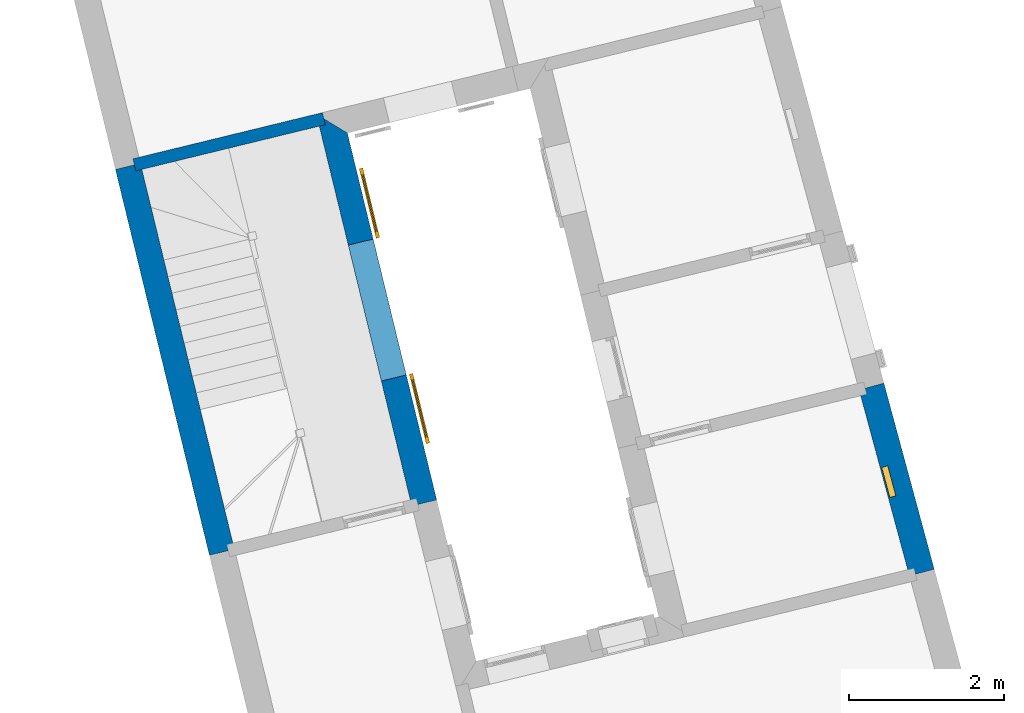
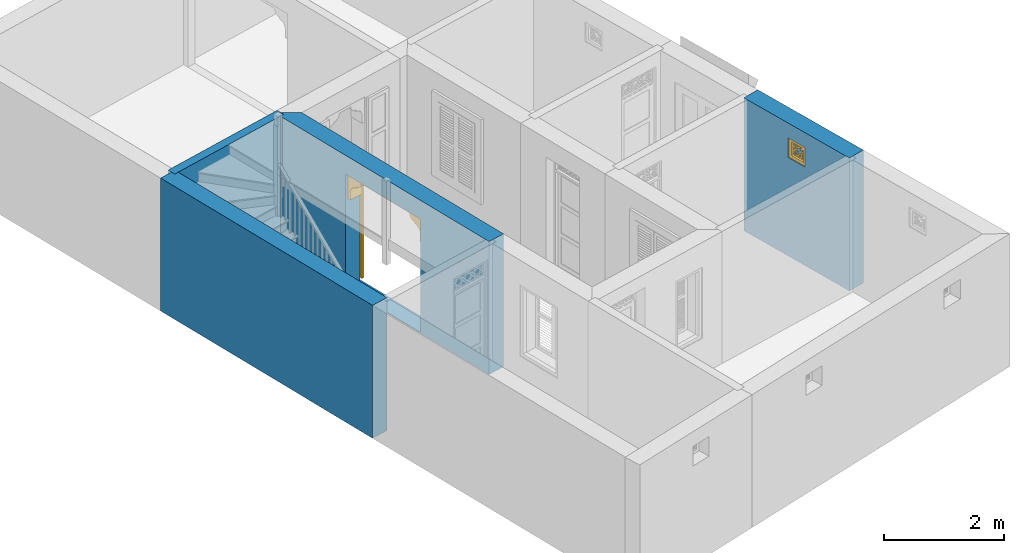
# One storey, part 8 of 15: 4 walls, 1 door, 1 window, 2 openings.
"""IFC4 building model written with IfcOpenShell, lengths in metres."""

import ifcopenshell
import ifcopenshell.guid

model = None  # the IFC model being written
_history = None  # IfcOwnerHistory: only IFC2X3 demands one
_inside = {}  # id of a spatial element -> (the spatial element, [elements in it])
_under = {}  # id of a project, library or spatial element -> (it, [spatial elements below it])
_declared = {}  # id of a project -> (the project, [libraries it declares])
_typed = {}  # id of a type object -> (the type object, [elements of that type])
_made_of = {}  # id of a material, layer set ... -> (it, [elements and type objects made of it])


def new_model(schema):
    """Start an empty IFC model of exactly this schema.

    Asked for "IFC4X3", IfcOpenShell would pick the latest addendum, in which some entities
    have other attributes; the version numbers below select the first issue.
    IFC2X3 requires an IfcOwnerHistory on every rooted entity: one is made here for all.
    """
    global model, _history
    if schema == "IFC4X3":
        model = ifcopenshell.file(schema_version=(4, 3, 0, 0))
    else:
        model = ifcopenshell.file(schema=schema)
    _inside.clear()
    _under.clear()
    _declared.clear()
    _typed.clear()
    _made_of.clear()
    _history = None
    if model.schema == "IFC2X3":
        org = make("IfcOrganization", Name="unknown")
        user = make(
            "IfcPersonAndOrganization",
            ThePerson=make("IfcPerson", FamilyName="unknown"),
            TheOrganization=org,
        )
        app = make(
            "IfcApplication",
            ApplicationDeveloper=org,
            Version="unknown",
            ApplicationFullName="unknown",
            ApplicationIdentifier="unknown",
        )
        _history = make(
            "IfcOwnerHistory",
            OwningUser=user,
            OwningApplication=app,
            ChangeAction="ADDED",
            CreationDate=0,
        )
    return model


def make(cls, **values):
    """One entity of the class cls with the attributes given. An attribute that is None is left unset."""
    return model.create_entity(
        cls, **{name: value for name, value in values.items() if value is not None}
    )


def rooted(cls, **values):
    """An entity with a GlobalId (a new one), such as an element, a storey or a relation."""
    return make(cls, GlobalId=ifcopenshell.guid.new(), OwnerHistory=_history, **values)


def si_unit(unit_type, name, prefix=None):
    """IfcSIUnit, for example si_unit("LENGTHUNIT", "METRE", prefix="MILLI")."""
    return make("IfcSIUnit", UnitType=unit_type, Prefix=prefix, Name=name)


def assignment(units):
    """IfcUnitAssignment: the units of a project."""
    return None if units is None else make("IfcUnitAssignment", Units=units)


def point(xyz):
    """IfcCartesianPoint."""
    return None if xyz is None else make("IfcCartesianPoint", Coordinates=xyz)


def direction(xyz):
    """IfcDirection."""
    return None if xyz is None else make("IfcDirection", DirectionRatios=xyz)


def frame(location, z_axis=None, x_axis=None):
    """IfcAxis2Placement3D, a coordinate frame: its origin and axes. An axis left out is left unset."""
    return make(
        "IfcAxis2Placement3D",
        Location=point(location),
        Axis=direction(z_axis),
        RefDirection=direction(x_axis),
    )


def origin():
    """The frame at (0, 0, 0) with its axes left unset."""
    return frame((0.0, 0.0, 0.0))


def origin_with_axes():
    """The frame at (0, 0, 0) with the z axis (0, 0, 1) and the x axis (1, 0, 0) written out."""
    return frame((0.0, 0.0, 0.0), z_axis=(0.0, 0.0, 1.0), x_axis=(1.0, 0.0, 0.0))


def place(relative_to, where):
    """IfcLocalPlacement: puts the frame where relative to a parent placement (None: the world)."""
    return make(
        "IfcLocalPlacement", PlacementRelTo=relative_to, RelativePlacement=where
    )


def context(
    kind, dimensions, precision=None, world=None, true_north=None, identifier=None
):
    """IfcGeometricRepresentationContext, for example the 3D "Model" context."""
    return make(
        "IfcGeometricRepresentationContext",
        ContextIdentifier=identifier,
        ContextType=kind,
        CoordinateSpaceDimension=dimensions,
        Precision=precision,
        WorldCoordinateSystem=world,
        TrueNorth=true_north,
    )


def subcontext(parent, identifier, kind, view, scale=None):
    """IfcGeometricRepresentationSubContext, for example "Body" below "Model"."""
    return make(
        "IfcGeometricRepresentationSubContext",
        ContextIdentifier=identifier,
        ContextType=kind,
        ParentContext=parent,
        TargetScale=scale,
        TargetView=view,
    )


def project(units=None, contexts=None):
    """IfcProject with its units and contexts."""
    return rooted(
        "IfcProject",
        Name="project",
        RepresentationContexts=contexts,
        UnitsInContext=assignment(units),
    )


def spatial(cls, under=None, at=None, **own):
    """A site, building, storey or space (cls), placed at a placement, below another one or the project."""
    s = rooted(cls, ObjectPlacement=at, **own)
    if under is not None:
        _under.setdefault(under.id(), (under, []))[1].append(s)
    return s


def polyline(points):
    """IfcPolyline through the points."""
    return make("IfcPolyline", Points=[point(p) for p in points])


def outline(outer, holes=None, kind="AREA"):
    """IfcArbitraryClosedProfileDef: a profile drawn as a closed curve; with holes, ...WithVoids."""
    if holes is None:
        return make("IfcArbitraryClosedProfileDef", ProfileType=kind, OuterCurve=outer)
    return make(
        "IfcArbitraryProfileDefWithVoids",
        ProfileType=kind,
        OuterCurve=outer,
        InnerCurves=holes,
    )


def extrude(swept, where, along, depth):
    """IfcExtrudedAreaSolid: the profile swept, set in the frame where, extruded along a direction by depth."""
    return make(
        "IfcExtrudedAreaSolid",
        SweptArea=swept,
        Position=where,
        ExtrudedDirection=direction(along),
        Depth=depth,
    )


def faces_of(points, faces, orient=None, outer=None):
    """IfcFace entities. A face is a list of loops; a loop is a list of indices into points, from 0.

    orient and outer hold one flag for each loop. By default every Orientation is true, the
    first loop of a face is its IfcFaceOuterBound and the others are IfcFaceBound.
    """
    made = []
    for i, loops in enumerate(faces):
        bounds = []
        for j, loop in enumerate(loops):
            is_outer = j == 0 if outer is None else outer[i][j]
            bounds.append(
                make(
                    "IfcFaceOuterBound" if is_outer else "IfcFaceBound",
                    Bound=make("IfcPolyLoop", Polygon=[points[k] for k in loop]),
                    Orientation=True if orient is None else orient[i][j],
                )
            )
        made.append(make("IfcFace", Bounds=bounds))
    return made


def faceted_brep(points, faces, orient=None, outer=None, voids=None):
    """IfcFacetedBrep: a solid bounded by flat faces; with voids (closed shells), ...WithVoids."""
    shared = [point(p) for p in points]
    hull = make("IfcClosedShell", CfsFaces=faces_of(shared, faces, orient, outer))
    if voids is None:
        return make("IfcFacetedBrep", Outer=hull)
    return make(
        "IfcFacetedBrepWithVoids",
        Outer=hull,
        Voids=[
            make(cls, CfsFaces=faces_of(shared, fs, o, b)) for cls, fs, o, b in voids
        ],
    )


def shape(context_of_items, identifier, shape_type, items):
    """IfcShapeRepresentation: the items that make up one representation, for example the "Body"."""
    return make(
        "IfcShapeRepresentation",
        ContextOfItems=context_of_items,
        RepresentationIdentifier=identifier,
        RepresentationType=shape_type,
        Items=items,
    )


def source(mapping_origin, context_of_items, identifier, shape_type, items):
    """IfcRepresentationMap: a shape defined once, which mapped items show again and again."""
    return make(
        "IfcRepresentationMap",
        MappingOrigin=mapping_origin,
        MappedRepresentation=shape(context_of_items, identifier, shape_type, items),
    )


def transform(
    local_origin,
    x_axis=None,
    y_axis=None,
    z_axis=None,
    scale=None,
    scale2=None,
    scale3=None,
    uniform=True,
):
    """IfcCartesianTransformationOperator3D, or its non-uniform kind. x_axis, y_axis, z_axis: its Axis1, 2, 3."""
    if uniform:
        return make(
            "IfcCartesianTransformationOperator3D",
            Axis1=direction(x_axis),
            Axis2=direction(y_axis),
            LocalOrigin=point(local_origin),
            Scale=scale,
            Axis3=direction(z_axis),
        )
    return make(
        "IfcCartesianTransformationOperator3DnonUniform",
        Axis1=direction(x_axis),
        Axis2=direction(y_axis),
        LocalOrigin=point(local_origin),
        Scale=scale,
        Axis3=direction(z_axis),
        Scale2=scale2,
        Scale3=scale3,
    )


def mapped(mapping_source, mapping_target):
    """IfcMappedItem: shows the shape of a source again, moved by a transform."""
    return make(
        "IfcMappedItem", MappingSource=mapping_source, MappingTarget=mapping_target
    )


def material(Name=None, Category=None):
    """IfcMaterial."""
    return make("IfcMaterial", Name=Name, Category=Category)


def layer(
    of_material, thickness, ventilated=None, Name=None, Category=None, Priority=None
):
    """IfcMaterialLayer: one layer of a wall or slab, of a material (None: an air gap)."""
    return make(
        "IfcMaterialLayer",
        Material=of_material,
        LayerThickness=thickness,
        IsVentilated=ventilated,
        Name=Name,
        Category=Category,
        Priority=Priority,
    )


def layer_set(layers, Name=None):
    """IfcMaterialLayerSet."""
    return make("IfcMaterialLayerSet", MaterialLayers=layers, LayerSetName=Name)


def layer_usage(for_layer_set, set_direction, sense, offset, extent=None):
    """IfcMaterialLayerSetUsage: how a layer set lies in its element."""
    return make(
        "IfcMaterialLayerSetUsage",
        ForLayerSet=for_layer_set,
        LayerSetDirection=set_direction,
        DirectionSense=sense,
        OffsetFromReferenceLine=offset,
        ReferenceExtent=extent,
    )


def made_of(thing, what):
    """Note that an element or type object is made of a material, layer set ...; save() writes the relation."""
    if what is not None:
        _made_of.setdefault(what.id(), (what, []))[1].append(thing)
    return thing


def type_object(cls, material=None, **own):
    """A type object (cls), such as IfcWallType, which elements share."""
    return made_of(rooted(cls, **own), material)


def type_shapes(of_type, sources):
    """Give a type object the sources (RepresentationMaps) that its elements show as mapped items."""
    of_type.RepresentationMaps = sources


def element(
    cls,
    number,
    at=None,
    inside=None,
    cuts=None,
    type_object=None,
    material=None,
    context=None,
    identifier="Body",
    shape_type=None,
    held_by="IfcProductDefinitionShape",
    body=None,
    shapes=None,
    **own,
):
    """One element of the class cls, such as IfcWall. Its Tag is "e" and its number.

    at: its placement. inside: the storey or other place that contains it. cuts: it is an
    opening in that element (IfcRelVoidsElement). A single representation is given by context,
    identifier, shape_type and body (its items); several are given by shapes. held_by: the class
    of the entity that holds the representations. save() writes the other relations.
    """
    e = rooted(cls, Tag="e%d" % number, ObjectPlacement=at, **own)
    if body is not None:
        shapes = [shape(context, identifier, shape_type, body)]
    if shapes is not None:
        e.Representation = make(held_by, Representations=shapes)
    if inside is not None:
        _inside.setdefault(inside.id(), (inside, []))[1].append(e)
    if cuts is not None:
        rooted(
            "IfcRelVoidsElement", RelatingBuildingElement=cuts, RelatedOpeningElement=e
        )
    if type_object is not None:
        _typed.setdefault(type_object.id(), (type_object, []))[1].append(e)
    return made_of(e, material)


def fill(opening, filler):
    """IfcRelFillsElement: the door or window that sits in an opening."""
    return rooted(
        "IfcRelFillsElement",
        RelatingOpeningElement=opening,
        RelatedBuildingElement=filler,
    )


def aggregate(whole, parts):
    """IfcRelAggregates: a whole, such as a stair, and the parts it consists of."""
    return rooted("IfcRelAggregates", RelatingObject=whole, RelatedObjects=parts)


def save(model, path):
    """Write the relations noted so far, then the file.

    IfcRelAggregates (storeys below a building ...), IfcRelContainedInSpatialStructure (elements
    in a storey), IfcRelDefinesByType, IfcRelAssociatesMaterial and IfcRelDeclares: one each for
    every whole, place, type object, material and project.
    """
    for whole, parts in _under.values():
        aggregate(whole, parts)
    for where, things in _inside.values():
        rooted(
            "IfcRelContainedInSpatialStructure",
            RelatedElements=things,
            RelatingStructure=where,
        )
    for kind, things in _typed.values():
        rooted("IfcRelDefinesByType", RelatedObjects=things, RelatingType=kind)
    for what, things in _made_of.values():
        rooted("IfcRelAssociatesMaterial", RelatedObjects=things, RelatingMaterial=what)
    for by, libraries in _declared.values():
        rooted("IfcRelDeclares", RelatingContext=by, RelatedDefinitions=libraries)
    model.write(path)


model = new_model("IFC4")

# Units and contexts
model_context = context("Model", 3, world=origin_with_axes())
body_context = subcontext(model_context, "Body", "Model", "MODEL_VIEW")
ifc_project = project(units=[si_unit("PLANEANGLEUNIT", "RADIAN"), si_unit("MASSUNIT", "GRAM", prefix="KILO"), si_unit("FORCEUNIT", "NEWTON", prefix="KILO"), si_unit("LENGTHUNIT", "METRE"), si_unit("AREAUNIT", "SQUARE_METRE"), si_unit("VOLUMEUNIT", "CUBIC_METRE")], contexts=[model_context, model_context])

# Site, building, storey
site_placement = place(None, origin_with_axes())
site = spatial("IfcSite", under=ifc_project, at=site_placement, Name="Site plot-4", CompositionType="ELEMENT")
building_placement = place(None, origin_with_axes())
building = spatial("IfcBuilding", under=site, at=building_placement, Name="Building plot-4", CompositionType="ELEMENT")
storey_placement = place(None, origin_with_axes())
storey = spatial("IfcBuildingStorey", under=building, at=storey_placement, Name="plot-4 0", CompositionType="ELEMENT", Elevation=0.0)

# Wall, opening, door
ifc_material_1 = material(Name="Masonry")
ifc_layer_1 = layer(ifc_material_1, 0.33, ventilated=False)
ifc_layer_set_1 = layer_set([ifc_layer_1], Name="exterior_0.08_0.25")
ifc_layer_usage_1 = layer_usage(ifc_layer_set_1, "AXIS2", "POSITIVE", -0.25)
wall_type_1 = type_object("IfcWallType", Name="exterior_0.08_0.25", PredefinedType="SOLIDWALL", material=ifc_layer_set_1)
wall_1_placement = place(storey_placement, frame((22.1734712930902, 10.0604083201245, 0.0), z_axis=(0.0, 0.0, 1.0), x_axis=(-0.236608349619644, 0.971605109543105, 0.0)))
wall_1 = element("IfcWall", 1, at=wall_1_placement, inside=storey, type_object=wall_type_1, material=ifc_layer_usage_1, Name="exterior", context=body_context, shape_type="SweptSolid", body=[
    extrude(outline(polyline([(1.33716621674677e-15, 0.0799999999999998), (-1.76104875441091e-15, -0.25), (4.85976284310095, -0.249999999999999), (5.18976284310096, 0.0799999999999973), (1.33716621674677e-15, 0.0799999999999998)])), origin_with_axes(), (0.0, 0.0, 1.0), 2.7),
])
opening_1_placement = place(wall_1_placement, frame((1.65488142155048, 0.0, 0.02)))
opening_1 = element("IfcOpeningElement", 2, at=opening_1_placement, cuts=wall_1, Name="My Opening", ObjectType="Opening", context=body_context, shape_type="SweptSolid", body=[
    extrude(outline(polyline([(0.0, -0.269999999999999), (1.8, -0.270000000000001), (1.8, 1.1), (1.55431223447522e-15, 1.1), (0.0, -0.269999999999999)])), origin_with_axes(), (0.0, 0.0, 1.0), 2.3),
])
door_type = type_object("IfcDoorType", Name="arch-1800x2300", OperationType="SINGLE_SWING_LEFT", PredefinedType="NOTDEFINED")
shared_shape_1 = source(origin(), body_context, "Body", "Brep", [
    faceted_brep([(-0.08, -0.02, 0.08), (-0.08, -0.02, 0.0), (-0.84, -0.02, 0.0), (-0.84, -0.02, 0.08), (-0.92, -0.02, 0.0), (-0.92, -0.02, 0.08), (-0.84, -0.035, 0.08), (-0.08, -0.035, 0.08), (0.0, -0.02, 0.08), (0.0, -0.02, 0.0), (-0.08, -0.066, 0.0), (-0.84, -0.066, 0.0), (-0.92, -0.066, 0.0), (-0.92, -0.066, 0.08), (-0.84, -0.02, 0.743333), (-0.92, -0.02, 0.743333), (-0.84, -0.035, 0.743333), (-0.08, -0.035, 0.743333), (-0.08, -0.02, 0.743333), (0.0, -0.02, 0.743333), (0.0, -0.066, 0.08), (0.0, -0.066, 0.0), (-0.84, -0.066, 0.08), (-0.08, -0.066, 0.08), (-0.92, -0.066, 0.743333), (-0.84, -0.02, 0.823333), (-0.92, -0.02, 0.823333), (0.0, -0.066, 0.743333), (0.0, -0.02, 0.823333), (-0.08, -0.02, 0.823333), (-0.08, -0.051, 0.08), (-0.84, -0.051, 0.08), (-0.84, -0.066, 0.743333), (-0.92, -0.066, 0.823333), (-0.84, -0.02, 1.486667), (-0.92, -0.02, 1.486667), (0.0, -0.066, 0.823333), (-0.08, -0.066, 0.743333), (0.0, -0.02, 1.486667), (-0.08, -0.02, 1.486667), (-0.08, -0.051, 0.743333), (-0.84, -0.051, 0.743333), (-0.84, -0.066, 0.823333), (-0.92, -0.066, 1.486667), (-0.84, -0.035, 0.823333), (-0.08, -0.035, 0.823333), (-0.84, -0.035, 1.486667), (-0.84, -0.02, 1.566667), (-0.92, -0.02, 1.566667), (0.0, -0.066, 1.486667), (-0.08, -0.066, 0.823333), (-0.08, -0.035, 1.486667), (0.0, -0.02, 1.566667), (-0.08, -0.02, 1.566667), (-0.84, -0.066, 1.486667), (-0.92, -0.066, 1.566667), (-0.84, -0.02, 2.23), (-0.92, -0.02, 2.23), (0.0, -0.066, 1.566667), (-0.08, -0.066, 1.486667), (0.0, -0.02, 2.23), (-0.08, -0.02, 2.23), (-0.08, -0.051, 0.823333), (-0.84, -0.051, 0.823333), (-0.84, -0.051, 1.486667), (-0.84, -0.066, 1.566667), (-0.92, -0.066, 2.23), (-0.84, -0.035, 1.566667), (-0.08, -0.035, 1.566667), (-0.84, -0.035, 2.23), (-0.84, -0.02, 2.31), (-0.92, -0.02, 2.31), (0.0, -0.066, 2.23), (-0.08, -0.066, 1.566667), (-0.08, -0.051, 1.486667), (-0.08, -0.035, 2.23), (0.0, -0.02, 2.31), (-0.08, -0.02, 2.31), (-0.84, -0.066, 2.23), (-0.92, -0.066, 2.31), (-0.84, -0.066, 2.31), (0.0, -0.066, 2.31), (-0.08, -0.066, 2.23), (-0.08, -0.066, 2.31), (-0.08, -0.051, 1.566667), (-0.84, -0.051, 1.566667), (-0.84, -0.051, 2.23), (-0.08, -0.051, 2.23), (2.64, -0.02, 0.08), (2.64, -0.02, 0.0), (1.88, -0.02, 0.0), (1.88, -0.02, 0.08), (2.72, -0.02, 0.08), (2.72, -0.02, 0.0), (1.88, -0.035, 0.08), (2.64, -0.035, 0.08), (1.8, -0.02, 0.0), (1.8, -0.02, 0.08), (2.64, -0.066, 0.0), (1.88, -0.066, 0.0), (2.72, -0.066, 0.08), (2.72, -0.066, 0.0), (2.72, -0.02, 0.743333), (2.64, -0.02, 0.743333), (2.64, -0.035, 0.743333), (1.88, -0.035, 0.743333), (1.88, -0.02, 0.743333), (1.8, -0.02, 0.743333), (1.8, -0.066, 0.0), (1.8, -0.066, 0.08), (1.88, -0.066, 0.08), (2.64, -0.066, 0.08), (2.72, -0.066, 0.743333), (2.72, -0.02, 0.823333), (2.64, -0.02, 0.823333), (1.8, -0.066, 0.743333), (1.88, -0.02, 0.823333), (1.8, -0.02, 0.823333), (2.64, -0.051, 0.08), (1.88, -0.051, 0.08), (2.64, -0.066, 0.743333), (2.72, -0.066, 0.823333), (2.72, -0.02, 1.486667), (2.64, -0.02, 1.486667), (1.8, -0.066, 0.823333), (1.88, -0.066, 0.743333), (1.88, -0.02, 1.486667), (1.8, -0.02, 1.486667), (1.88, -0.051, 0.743333), (2.64, -0.051, 0.743333), (2.64, -0.066, 0.823333), (2.72, -0.066, 1.486667), (1.88, -0.035, 0.823333), (2.64, -0.035, 0.823333), (2.64, -0.035, 1.486667), (2.72, -0.02, 1.566667), (2.64, -0.02, 1.566667), (1.8, -0.066, 1.486667), (1.88, -0.066, 0.823333), (1.88, -0.035, 1.486667), (1.88, -0.02, 1.566667), (1.8, -0.02, 1.566667), (2.64, -0.066, 1.486667), (2.72, -0.066, 1.566667), (2.72, -0.02, 2.23), (2.64, -0.02, 2.23), (1.8, -0.066, 1.566667), (1.88, -0.066, 1.486667), (1.88, -0.02, 2.23), (1.8, -0.02, 2.23), (2.64, -0.051, 0.823333), (1.88, -0.051, 0.823333), (2.64, -0.051, 1.486667), (2.64, -0.066, 1.566667), (2.72, -0.066, 2.23), (1.88, -0.035, 1.566667), (2.64, -0.035, 1.566667), (2.64, -0.035, 2.23), (2.72, -0.02, 2.31), (2.64, -0.02, 2.31), (1.8, -0.066, 2.23), (1.88, -0.066, 1.566667), (1.88, -0.051, 1.486667), (1.88, -0.035, 2.23), (1.88, -0.02, 2.31), (1.8, -0.02, 2.31), (2.64, -0.066, 2.23), (2.72, -0.066, 2.31), (2.64, -0.066, 2.31), (1.8, -0.066, 2.31), (1.88, -0.066, 2.23), (1.88, -0.066, 2.31), (2.64, -0.051, 1.566667), (1.88, -0.051, 1.566667), (2.64, -0.051, 2.23), (1.88, -0.051, 2.23), (1.8, 0.03, 1.78), (1.8, 0.03, 1.95), (1.74, 0.03, 1.95), (1.74, 0.03, 1.78), (1.74, 0.3, 1.95), (1.74, 0.3, 1.78), (1.8, 0.03, 2.12), (1.729, 0.03, 2.004), (1.8, 0.3, 1.78), (1.8, 0.3, 1.95), (1.729, 0.3, 2.004), (1.699, 0.03, 2.049), (1.8, 0.3, 2.12), (1.699, 0.3, 2.049), (1.654, 0.03, 2.079), (1.8, 0.3, 2.29), (1.8, 0.03, 2.29), (1.654, 0.3, 2.079), (1.6, 0.03, 2.09), (1.6, 0.03, 2.12), (1.554, 0.03, 2.129), (1.48, 0.3, 2.29), (1.48, 0.03, 2.29), (1.6, 0.3, 2.12), (1.554, 0.3, 2.129), (1.6, 0.3, 2.09), (1.515, 0.03, 2.155), (1.489, 0.3, 2.194), (1.48, 0.3, 2.24), (1.48, 0.03, 2.24), (1.489, 0.03, 2.194), (1.515, 0.3, 2.155), (0.06, 0.03, 1.78), (0.06, 0.03, 1.95), (0.0, 0.03, 1.95), (0.0, 0.03, 1.78), (0.06, 0.3, 1.78), (0.06, 0.3, 1.95), (0.071, 0.03, 2.004), (0.0, 0.03, 2.12), (0.0, 0.3, 1.95), (0.0, 0.3, 1.78), (0.071, 0.3, 2.004), (0.101, 0.03, 2.049), (0.0, 0.3, 2.12), (0.101, 0.3, 2.049), (0.146, 0.03, 2.079), (0.0, 0.03, 2.29), (0.0, 0.3, 2.29), (0.146, 0.3, 2.079), (0.2, 0.03, 2.12), (0.2, 0.03, 2.09), (0.246, 0.03, 2.129), (0.32, 0.03, 2.29), (0.32, 0.3, 2.29), (0.246, 0.3, 2.129), (0.2, 0.3, 2.12), (0.2, 0.3, 2.09), (0.285, 0.03, 2.155), (0.32, 0.3, 2.24), (0.311, 0.3, 2.194), (0.311, 0.03, 2.194), (0.32, 0.03, 2.24), (0.285, 0.3, 2.155)], [[[0, 1, 2, 3]], [[4, 5, 3, 2]], [[0, 3, 6, 7]], [[1, 0, 8, 9]], [[2, 1, 10, 11]], [[5, 4, 12, 13]], [[14, 3, 5, 15]], [[4, 2, 11, 12]], [[3, 14, 16, 6]], [[6, 16, 17, 7]], [[18, 0, 7, 17]], [[0, 18, 19, 8]], [[9, 8, 20, 21]], [[1, 9, 21, 10]], [[22, 11, 10, 23]], [[13, 12, 11, 22]], [[15, 5, 13, 24]], [[25, 14, 15, 26]], [[14, 18, 17, 16]], [[8, 19, 27, 20]], [[28, 19, 18, 29]], [[23, 10, 21, 20]], [[22, 23, 30, 31]], [[22, 32, 24, 13]], [[26, 15, 24, 33]], [[29, 18, 14, 25]], [[34, 25, 26, 35]], [[19, 28, 36, 27]], [[20, 27, 37, 23]], [[38, 28, 29, 39]], [[23, 37, 40, 30]], [[41, 31, 30, 40]], [[32, 22, 31, 41]], [[32, 42, 33, 24]], [[35, 26, 33, 43]], [[29, 25, 44, 45]], [[25, 34, 46, 44]], [[47, 34, 35, 48]], [[28, 38, 49, 36]], [[27, 36, 50, 37]], [[39, 29, 45, 51]], [[52, 38, 39, 53]], [[37, 32, 41, 40]], [[37, 50, 42, 32]], [[42, 54, 43, 33]], [[48, 35, 43, 55]], [[44, 46, 51, 45]], [[34, 39, 51, 46]], [[34, 47, 53, 39]], [[56, 47, 48, 57]], [[38, 52, 58, 49]], [[36, 49, 59, 50]], [[60, 52, 53, 61]], [[42, 50, 62, 63]], [[54, 42, 63, 64]], [[54, 65, 55, 43]], [[57, 48, 55, 66]], [[53, 47, 67, 68]], [[47, 56, 69, 67]], [[70, 56, 57, 71]], [[52, 60, 72, 58]], [[49, 58, 73, 59]], [[50, 59, 74, 62]], [[61, 53, 68, 75]], [[76, 60, 61, 77]], [[64, 63, 62, 74]], [[59, 54, 64, 74]], [[65, 54, 59, 73]], [[65, 78, 66, 55]], [[71, 57, 66, 79]], [[67, 69, 75, 68]], [[56, 61, 75, 69]], [[77, 61, 56, 70]], [[70, 71, 79, 80]], [[60, 76, 81, 72]], [[58, 72, 82, 73]], [[76, 77, 83, 81]], [[65, 73, 84, 85]], [[78, 65, 85, 86]], [[78, 80, 79, 66]], [[77, 70, 80, 83]], [[72, 81, 83, 82]], [[73, 82, 87, 84]], [[86, 85, 84, 87]], [[82, 78, 86, 87]], [[82, 83, 80, 78]], [[88, 89, 90, 91]], [[89, 88, 92, 93]], [[94, 95, 88, 91]], [[96, 97, 91, 90]], [[98, 99, 90, 89]], [[100, 101, 93, 92]], [[102, 92, 88, 103]], [[101, 98, 89, 93]], [[95, 104, 103, 88]], [[94, 105, 104, 95]], [[105, 94, 91, 106]], [[97, 107, 106, 91]], [[108, 109, 97, 96]], [[99, 108, 96, 90]], [[110, 99, 98, 111]], [[111, 98, 101, 100]], [[112, 100, 92, 102]], [[113, 102, 103, 114]], [[104, 105, 106, 103]], [[109, 115, 107, 97]], [[116, 106, 107, 117]], [[109, 108, 99, 110]], [[118, 119, 110, 111]], [[100, 112, 120, 111]], [[121, 112, 102, 113]], [[114, 103, 106, 116]], [[122, 113, 114, 123]], [[115, 124, 117, 107]], [[110, 125, 115, 109]], [[126, 116, 117, 127]], [[119, 128, 125, 110]], [[128, 119, 118, 129]], [[129, 118, 111, 120]], [[112, 121, 130, 120]], [[131, 121, 113, 122]], [[132, 133, 114, 116]], [[133, 134, 123, 114]], [[135, 122, 123, 136]], [[124, 137, 127, 117]], [[125, 138, 124, 115]], [[139, 132, 116, 126]], [[140, 126, 127, 141]], [[128, 129, 120, 125]], [[120, 130, 138, 125]], [[121, 131, 142, 130]], [[143, 131, 122, 135]], [[132, 139, 134, 133]], [[134, 139, 126, 123]], [[126, 140, 136, 123]], [[144, 135, 136, 145]], [[137, 146, 141, 127]], [[138, 147, 137, 124]], [[148, 140, 141, 149]], [[150, 151, 138, 130]], [[152, 150, 130, 142]], [[131, 143, 153, 142]], [[154, 143, 135, 144]], [[155, 156, 136, 140]], [[156, 157, 145, 136]], [[158, 144, 145, 159]], [[146, 160, 149, 141]], [[147, 161, 146, 137]], [[151, 162, 147, 138]], [[163, 155, 140, 148]], [[164, 148, 149, 165]], [[162, 151, 150, 152]], [[162, 152, 142, 147]], [[161, 147, 142, 153]], [[143, 154, 166, 153]], [[167, 154, 144, 158]], [[155, 163, 157, 156]], [[157, 163, 148, 145]], [[159, 145, 148, 164]], [[168, 167, 158, 159]], [[160, 169, 165, 149]], [[161, 170, 160, 146]], [[169, 171, 164, 165]], [[172, 173, 161, 153]], [[174, 172, 153, 166]], [[154, 167, 168, 166]], [[171, 168, 159, 164]], [[170, 171, 169, 160]], [[173, 175, 170, 161]], [[175, 173, 172, 174]], [[175, 174, 166, 170]], [[166, 168, 171, 170]], [[176, 177, 178, 179]], [[180, 181, 179, 178]], [[177, 182, 183, 178]], [[177, 176, 184, 185]], [[181, 184, 176, 179]], [[181, 180, 185, 184]], [[186, 180, 178, 183]], [[182, 187, 183]], [[182, 177, 185, 188]], [[180, 186, 188, 185]], [[189, 186, 183, 187]], [[182, 190, 187]], [[188, 191, 192, 182]], [[188, 186, 189]], [[193, 189, 187, 190]], [[194, 190, 182, 195]], [[182, 192, 196, 195]], [[192, 191, 197, 198]], [[199, 200, 191, 188]], [[188, 189, 193]], [[201, 193, 190, 194]], [[199, 201, 194, 195]], [[200, 199, 195, 196]], [[192, 202, 196]], [[191, 203, 204, 197]], [[192, 198, 205, 206]], [[207, 191, 200]], [[199, 188, 193, 201]], [[207, 200, 196, 202]], [[192, 206, 202]], [[204, 203, 206, 205]], [[203, 191, 207]], [[203, 207, 202, 206]], [[208, 209, 210, 211]], [[209, 208, 212, 213]], [[209, 214, 215, 210]], [[211, 210, 216, 217]], [[208, 211, 217, 212]], [[217, 216, 213, 212]], [[214, 209, 213, 218]], [[214, 219, 215]], [[220, 216, 210, 215]], [[216, 220, 218, 213]], [[219, 214, 218, 221]], [[219, 222, 215]], [[215, 223, 224, 220]], [[221, 218, 220]], [[222, 219, 221, 225]], [[226, 215, 222, 227]], [[226, 228, 223, 215]], [[229, 230, 224, 223]], [[220, 224, 231, 232]], [[225, 221, 220]], [[227, 222, 225, 233]], [[226, 227, 233, 232]], [[228, 226, 232, 231]], [[228, 234, 223]], [[230, 235, 236, 224]], [[237, 238, 229, 223]], [[231, 224, 239]], [[233, 225, 220, 232]], [[234, 228, 231, 239]], [[234, 237, 223]], [[238, 237, 236, 235]], [[239, 224, 236]], [[237, 234, 239, 236]], [[238, 235, 204, 205]], [[235, 230, 197, 204]], [[229, 238, 205, 198]], [[230, 229, 198, 197]]]),
])
type_shapes(door_type, [shared_shape_1])
door_placement = place(storey_placement, frame((22.0442459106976, 11.7321838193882, 0.02), z_axis=(0.0, 0.0, 1.0), x_axis=(-0.425895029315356, 1.74888919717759, 0.0)))
door = element("IfcDoor", 3, at=door_placement, inside=storey, type_object=door_type, Name="circulation sahn door", OverallHeight=2.3, OverallWidth=1.8, context=body_context, shape_type="MappedRepresentation", body=[
    mapped(shared_shape_1, transform((0.0, 0.0, 0.0), scale=1.0)),
])
fill(opening_1, door)

# Wall, opening, window
wall_2_placement = place(storey_placement, frame((28.5768427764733, 9.16316959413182, 0.0), z_axis=(0.0, 0.0, 1.0), x_axis=(-0.261170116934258, 0.965292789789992, 0.0)))
wall_2 = element("IfcWall", 4, at=wall_2_placement, inside=storey, type_object=wall_type_1, material=ifc_layer_usage_1, Name="exterior", context=body_context, shape_type="SweptSolid", body=[
    extrude(outline(polyline([(-1.30960547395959e-15, 0.0799999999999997), (4.34517788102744e-15, -0.249999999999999), (2.48014590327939, -0.250000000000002), (2.48014590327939, 0.079999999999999), (-1.30960547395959e-15, 0.0799999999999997)])), origin_with_axes(), (0.0, 0.0, 1.0), 2.7),
])
opening_2_placement = place(wall_2_placement, frame((1.04007295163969, 0.0, 2.0)))
opening_2 = element("IfcOpeningElement", 5, at=opening_2_placement, cuts=wall_2, Name="My Opening", ObjectType="Opening", context=body_context, shape_type="SweptSolid", body=[
    extrude(outline(polyline([(0.0, -0.27), (0.399999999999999, -0.270000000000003), (0.4, 1.1), (6.66133814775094e-16, 1.1), (0.0, -0.27)])), origin_with_axes(), (0.0, 0.0, 1.0), 0.4),
])
window_type = type_object("IfcWindowType", Name="barred_window", PartitioningType="DOUBLE_PANEL_HORIZONTAL", PredefinedType="NOTDEFINED")
shared_shape_2 = source(origin(), body_context, "Body", "Brep", [
    faceted_brep([(0.4, 0.25, 0.4), (0.0, 0.25, 0.4), (0.06, 0.25, 0.34), (0.34, 0.25, 0.34), (0.06, 0.33, 0.34), (0.34, 0.33, 0.34), (0.34, 0.25, 0.06), (0.4, 0.25, 0.0), (0.4, 0.33, 0.4), (0.0, 0.33, 0.4), (0.0, 0.25, 0.0), (0.06, 0.25, 0.06), (0.06, 0.33, 0.06), (0.34, 0.33, 0.06), (0.4, 0.33, 0.0), (0.0, 0.33, 0.0), (0.136152, 0.28, 0.08), (0.08, 0.28, 0.08), (0.06, 0.28, 0.06), (0.136152, 0.28, 0.06), (0.136152, 0.29, 0.08), (0.08, 0.29, 0.08), (0.06, 0.28, 0.136152), (0.08, 0.28, 0.136152), (0.06, 0.29, 0.06), (0.136152, 0.29, 0.06), (0.170294, 0.28, 0.08), (0.170294, 0.28, 0.06), (0.136152, 0.28, 0.136152), (0.136152, 0.29, 0.136152), (0.08, 0.29, 0.136152), (0.06, 0.29, 0.136152), (0.08, 0.28, 0.170294), (0.06, 0.28, 0.170294), (0.170294, 0.29, 0.06), (0.229706, 0.28, 0.08), (0.229706, 0.28, 0.06), (0.156152, 0.28, 0.094142), (0.156152, 0.28, 0.136152), (0.185858, 0.28, 0.123848), (0.185858, 0.29, 0.123848), (0.156152, 0.29, 0.094142), (0.156152, 0.29, 0.136152), (0.229706, 0.29, 0.08), (0.170294, 0.29, 0.08), (0.2, 0.28, 0.109706), (0.2, 0.29, 0.109706), (0.06, 0.29, 0.170294), (0.094142, 0.28, 0.156152), (0.08, 0.28, 0.229706), (0.06, 0.28, 0.229706), (0.229706, 0.29, 0.06), (0.263848, 0.28, 0.08), (0.263848, 0.28, 0.06), (0.156152, 0.28, 0.156152), (0.136152, 0.28, 0.156152), (0.173553, 0.28, 0.136152), (0.173553, 0.29, 0.136152), (0.156152, 0.29, 0.156152), (0.136152, 0.29, 0.156152), (0.094142, 0.29, 0.156152), (0.08, 0.29, 0.170294), (0.06, 0.29, 0.229706), (0.123848, 0.28, 0.185858), (0.109706, 0.28, 0.2), (0.08, 0.29, 0.229706), (0.08, 0.28, 0.263848), (0.06, 0.28, 0.263848), (0.263848, 0.29, 0.06), (0.2, 0.28, 0.13799), (0.214142, 0.28, 0.123848), (0.34, 0.28, 0.06), (0.32, 0.28, 0.08), (0.181838, 0.28, 0.156152), (0.136152, 0.28, 0.173553), (0.156152, 0.28, 0.181838), (0.181838, 0.29, 0.156152), (0.2, 0.29, 0.13799), (0.214142, 0.29, 0.123848), (0.136152, 0.29, 0.173553), (0.156152, 0.29, 0.181838), (0.243848, 0.28, 0.094142), (0.243848, 0.29, 0.094142), (0.263848, 0.28, 0.136152), (0.263848, 0.29, 0.08), (0.263848, 0.29, 0.136152), (0.32, 0.29, 0.08), (0.243848, 0.28, 0.136152), (0.243848, 0.29, 0.136152), (0.06, 0.29, 0.263848), (0.123848, 0.29, 0.185858), (0.13799, 0.28, 0.2), (0.123848, 0.28, 0.214142), (0.109706, 0.29, 0.2), (0.094142, 0.28, 0.243848), (0.08, 0.28, 0.32), (0.06, 0.28, 0.34), (0.34, 0.29, 0.06), (0.218162, 0.28, 0.156152), (0.226447, 0.28, 0.136152), (0.34, 0.28, 0.229706), (0.32, 0.28, 0.229706), (0.32, 0.28, 0.170294), (0.32, 0.28, 0.136152), (0.218162, 0.29, 0.156152), (0.226447, 0.29, 0.136152), (0.13799, 0.29, 0.2), (0.32, 0.29, 0.136152), (0.08, 0.29, 0.263848), (0.06, 0.29, 0.34), (0.136152, 0.28, 0.226447), (0.156152, 0.28, 0.218162), (0.094142, 0.29, 0.243848), (0.123848, 0.29, 0.214142), (0.136152, 0.28, 0.243848), (0.136152, 0.28, 0.263848), (0.08, 0.29, 0.32), (0.136152, 0.28, 0.34), (0.136152, 0.28, 0.32), (0.34, 0.29, 0.229706), (0.243848, 0.28, 0.156152), (0.263848, 0.28, 0.156152), (0.34, 0.28, 0.263848), (0.32, 0.28, 0.263848), (0.32, 0.29, 0.229706), (0.32, 0.29, 0.170294), (0.290294, 0.28, 0.2), (0.276152, 0.28, 0.185858), (0.305858, 0.28, 0.156152), (0.243848, 0.29, 0.156152), (0.263848, 0.29, 0.156152), (0.305858, 0.29, 0.156152), (0.276152, 0.29, 0.185858), (0.290294, 0.29, 0.2), (0.136152, 0.29, 0.34), (0.136152, 0.29, 0.226447), (0.156152, 0.29, 0.218162), (0.156152, 0.28, 0.243848), (0.136152, 0.29, 0.243848), (0.156152, 0.28, 0.263848), (0.136152, 0.29, 0.263848), (0.136152, 0.29, 0.32), (0.170294, 0.28, 0.32), (0.170294, 0.28, 0.34), (0.34, 0.29, 0.263848), (0.243848, 0.28, 0.181838), (0.263848, 0.28, 0.173553), (0.34, 0.28, 0.34), (0.32, 0.28, 0.32), (0.305858, 0.28, 0.243848), (0.276152, 0.28, 0.214142), (0.26201, 0.28, 0.2), (0.243848, 0.29, 0.181838), (0.263848, 0.29, 0.173553), (0.26201, 0.29, 0.2), (0.276152, 0.29, 0.214142), (0.32, 0.29, 0.263848), (0.170294, 0.29, 0.34), (0.156152, 0.29, 0.243848), (0.173553, 0.28, 0.263848), (0.181838, 0.28, 0.243848), (0.156152, 0.28, 0.305858), (0.229706, 0.28, 0.32), (0.229706, 0.28, 0.34), (0.34, 0.29, 0.34), (0.263848, 0.28, 0.34), (0.263848, 0.28, 0.32), (0.32, 0.29, 0.32), (0.263848, 0.28, 0.263848), (0.263848, 0.28, 0.243848), (0.305858, 0.29, 0.243848), (0.263848, 0.28, 0.226447), (0.243848, 0.28, 0.218162), (0.243848, 0.29, 0.218162), (0.263848, 0.29, 0.226447), (0.156152, 0.29, 0.263848), (0.170294, 0.29, 0.32), (0.229706, 0.29, 0.34), (0.181838, 0.29, 0.243848), (0.173553, 0.29, 0.263848), (0.185858, 0.28, 0.276152), (0.2, 0.28, 0.26201), (0.156152, 0.29, 0.305858), (0.229706, 0.29, 0.32), (0.263848, 0.29, 0.34), (0.263848, 0.29, 0.32), (0.263848, 0.29, 0.263848), (0.243848, 0.28, 0.243848), (0.243848, 0.28, 0.263848), (0.263848, 0.29, 0.243848), (0.243848, 0.29, 0.243848), (0.2, 0.29, 0.26201), (0.185858, 0.29, 0.276152), (0.214142, 0.28, 0.276152), (0.218162, 0.28, 0.243848), (0.226447, 0.28, 0.263848), (0.243848, 0.28, 0.305858), (0.2, 0.28, 0.290294), (0.2, 0.29, 0.290294), (0.243848, 0.29, 0.263848), (0.218162, 0.29, 0.243848), (0.214142, 0.29, 0.276152), (0.226447, 0.29, 0.263848), (0.243848, 0.29, 0.305858)], [[[0, 1, 2, 3]], [[3, 2, 4, 5]], [[3, 6, 7, 0]], [[1, 0, 8, 9]], [[1, 10, 11, 2]], [[2, 11, 12, 4]], [[9, 8, 5, 4]], [[6, 3, 5, 13]], [[6, 11, 10, 7]], [[0, 7, 14, 8]], [[10, 1, 9, 15]], [[11, 6, 13, 12]], [[4, 12, 15, 9]], [[8, 14, 13, 5]], [[7, 10, 15, 14]], [[12, 13, 14, 15]], [[16, 17, 18, 19]], [[17, 16, 20, 21]], [[22, 18, 17, 23]], [[19, 18, 24, 25]], [[26, 16, 19, 27]], [[16, 28, 29, 20]], [[21, 20, 25, 24]], [[23, 17, 21, 30]], [[18, 22, 31, 24]], [[23, 32, 33, 22]], [[27, 19, 25, 34]], [[35, 26, 27, 36]], [[28, 16, 37, 38]], [[37, 39, 40, 41]], [[38, 37, 41, 42]], [[20, 29, 42, 41]], [[26, 35, 43, 44]], [[45, 26, 44, 46]], [[20, 44, 34, 25]], [[28, 23, 30, 29]], [[24, 31, 30, 21]], [[22, 33, 47, 31]], [[48, 32, 23]], [[32, 49, 50, 33]], [[36, 27, 34, 51]], [[39, 37, 26, 45]], [[52, 35, 36, 53]], [[38, 54, 55, 28]], [[39, 56, 57, 40]], [[41, 40, 46, 44]], [[56, 38, 42, 57]], [[58, 42, 29, 59]], [[35, 45, 46, 43]], [[44, 43, 51, 34]], [[23, 28, 55, 48]], [[29, 30, 60, 59]], [[61, 30, 31, 47]], [[33, 50, 62, 47]], [[48, 63, 64, 32]], [[49, 32, 61, 65]], [[49, 66, 67, 50]], [[53, 36, 51, 68]], [[69, 39, 45, 70]], [[53, 71, 72, 52]], [[73, 54, 38, 56]], [[74, 55, 54, 75]], [[56, 39, 69, 73]], [[40, 57, 76, 77]], [[40, 77, 78, 46]], [[58, 76, 57, 42]], [[59, 79, 80, 58]], [[45, 35, 81, 70]], [[43, 46, 78, 82]], [[83, 52, 84, 85]], [[82, 84, 43]], [[52, 72, 86, 84]], [[43, 84, 68, 51]], [[44, 20, 41]], [[70, 81, 82, 78]], [[81, 87, 88, 82]], [[48, 55, 59, 60]], [[61, 60, 30]], [[65, 61, 47, 62]], [[50, 67, 89, 62]], [[63, 48, 60, 90]], [[63, 91, 92, 64]], [[32, 64, 93, 61]], [[64, 49, 65, 93]], [[94, 66, 49]], [[66, 95, 96, 67]], [[71, 53, 68, 97]], [[98, 69, 70, 99]], [[81, 52, 83, 87]], [[72, 71, 100]], [[100, 101, 102]], [[103, 72, 100]], [[100, 102, 103]], [[54, 73, 76, 58]], [[55, 74, 79, 59]], [[75, 54, 58, 80]], [[63, 74, 75, 91]], [[73, 69, 77, 76]], [[77, 104, 105, 78]], [[79, 90, 106, 80]], [[84, 82, 88, 85]], [[103, 83, 85, 107]], [[72, 103, 107, 86]], [[97, 68, 84, 86]], [[99, 70, 78, 105]], [[87, 99, 105, 88]], [[90, 60, 61, 93]], [[108, 65, 62, 89]], [[67, 96, 109, 89]], [[74, 63, 90, 79]], [[110, 92, 91, 111]], [[49, 64, 92, 94]], [[93, 65, 112, 113]], [[94, 114, 115, 66]], [[95, 66, 108, 116]], [[117, 96, 95, 118]], [[100, 71, 97, 119]], [[69, 98, 104, 77]], [[99, 87, 120, 98]], [[87, 83, 121, 120]], [[101, 100, 122, 123]], [[102, 101, 124, 125]], [[121, 83, 103]], [[103, 102, 126]], [[126, 127, 128]], [[128, 121, 103]], [[103, 126, 128]], [[91, 75, 80, 106]], [[88, 105, 104, 129]], [[106, 90, 93, 113]], [[85, 88, 129, 130]], [[107, 85, 130]], [[131, 132, 133]], [[107, 130, 131]], [[133, 125, 107]], [[107, 131, 133]], [[124, 119, 97]], [[97, 86, 107]], [[107, 125, 124]], [[97, 107, 124]], [[108, 112, 65]], [[116, 108, 89, 109]], [[96, 117, 134, 109]], [[92, 110, 135, 113]], [[111, 91, 106, 136]], [[114, 110, 111, 137]], [[94, 92, 113, 112]], [[114, 94, 112, 138]], [[114, 137, 139, 115]], [[66, 115, 140, 108]], [[118, 95, 116, 141]], [[118, 142, 143, 117]], [[122, 100, 119, 144]], [[98, 120, 129, 104]], [[145, 120, 121, 146]], [[122, 147, 148, 123]], [[123, 149, 101]], [[101, 126, 133, 124]], [[126, 102, 125, 133]], [[127, 126, 150, 151]], [[128, 127, 132, 131]], [[121, 128, 131, 130]], [[113, 135, 136, 106]], [[129, 152, 153, 130]], [[133, 132, 154, 155]], [[119, 124, 156, 144]], [[138, 112, 108, 140]], [[109, 134, 141, 116]], [[117, 143, 157, 134]], [[110, 114, 138, 135]], [[137, 111, 136, 158]], [[159, 139, 137, 160]], [[118, 115, 139, 161]], [[115, 118, 141, 140]], [[161, 142, 118]], [[162, 163, 143, 142]], [[147, 122, 144, 164]], [[120, 145, 152, 129]], [[146, 121, 130, 153]], [[146, 127, 151, 145]], [[147, 165, 166, 148]], [[123, 148, 167, 156]], [[149, 123, 168, 169]], [[149, 150, 126, 101]], [[155, 170, 124, 133]], [[151, 150, 171, 172]], [[127, 146, 153, 132]], [[135, 138, 158, 136]], [[132, 153, 152, 154]], [[155, 154, 173, 174]], [[170, 156, 124]], [[164, 144, 156, 167]], [[158, 138, 140, 175]], [[176, 141, 134, 157]], [[143, 163, 177, 157]], [[160, 137, 158, 178]], [[139, 159, 179, 175]], [[180, 159, 160, 181]], [[161, 139, 175, 182]], [[140, 141, 182, 175]], [[166, 165, 163, 162]], [[162, 142, 176, 183]], [[165, 147, 164, 184]], [[145, 151, 154, 152]], [[148, 166, 185, 167]], [[156, 186, 168, 123]], [[187, 169, 168, 188]], [[149, 169, 189, 170]], [[150, 149, 170, 155]], [[171, 150, 155, 174]], [[171, 169, 187, 172]], [[151, 172, 173, 154]], [[189, 174, 173, 190]], [[156, 170, 189, 186]], [[184, 164, 167, 185]], [[175, 179, 178, 158]], [[176, 182, 141]], [[177, 183, 176, 157]], [[163, 165, 184, 177]], [[181, 160, 178, 191]], [[159, 180, 192, 179]], [[180, 161, 182, 192]], [[193, 181, 194, 195]], [[196, 162, 197, 193]], [[180, 197, 142, 161]], [[197, 180, 181, 193]], [[142, 197, 198, 176]], [[162, 196, 166]], [[35, 52, 81]], [[197, 162, 183, 198]], [[185, 166, 168, 186]], [[196, 188, 168, 166]], [[187, 188, 195, 194]], [[169, 171, 174, 189]], [[172, 187, 190, 173]], [[189, 190, 199, 186]], [[184, 185, 183, 177]], [[179, 192, 191, 178]], [[176, 198, 192, 182]], [[194, 181, 191, 200]], [[191, 192, 198, 201]], [[26, 37, 16]], [[193, 195, 202, 201]], [[196, 193, 201, 203]], [[191, 201, 202, 200]], [[183, 203, 201, 198]], [[188, 196, 203, 199]], [[203, 183, 185]], [[199, 203, 185, 186]], [[195, 188, 199, 202]], [[187, 194, 200, 190]], [[199, 190, 200, 202]]]),
])
type_shapes(window_type, [shared_shape_2])
window_placement = place(storey_placement, frame((28.5658358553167, 10.2376604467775, 2.0), z_axis=(0.0, 0.0, 1.0), x_axis=(-0.1044680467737, 0.386117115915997, 0.0)))
window = element("IfcWindow", 6, at=window_placement, inside=storey, type_object=window_type, Name="toilet street window", OverallHeight=0.4, OverallWidth=0.4, context=body_context, shape_type="MappedRepresentation", body=[
    mapped(shared_shape_2, transform((0.0, 0.0, 0.0), scale=1.0)),
])
fill(opening_2, window)

# Walls
ifc_material_2 = material(Name="Masonry")
ifc_layer_2 = layer(ifc_material_2, 0.33, ventilated=False)
ifc_layer_set_2 = layer_set([ifc_layer_2], Name="party_0.08_0.25")
ifc_layer_usage_2 = layer_usage(ifc_layer_set_2, "AXIS2", "POSITIVE", -0.25)
wall_type_2 = type_object("IfcWallType", Name="party_0.08_0.25", PredefinedType="SOLIDWALL", material=ifc_layer_set_2)
wall_3_placement = place(storey_placement, frame((18.5257119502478, 14.4311886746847, 0.0), z_axis=(0.0, 0.0, 1.0), x_axis=(0.236608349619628, -0.971605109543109, 0.0)))
element("IfcWall", 7, at=wall_3_placement, inside=storey, type_object=wall_type_2, material=ifc_layer_usage_2, Name="party", context=body_context, shape_type="SweptSolid", body=[
    extrude(outline(polyline([(4.04257239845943e-17, 0.0799999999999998), (2.17452179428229e-15, -0.25), (5.10976284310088, -0.249999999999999), (5.10976284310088, 0.0799999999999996), (4.04257239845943e-17, 0.0799999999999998)])), origin_with_axes(), (0.0, 0.0, 1.0), 2.7),
])
ifc_material_3 = material(Name="Masonry")
ifc_layer_3 = layer(ifc_material_3, 0.16, ventilated=False)
ifc_layer_set_3 = layer_set([ifc_layer_3], Name="interior_0.08_0.08")
ifc_layer_usage_3 = layer_usage(ifc_layer_set_3, "AXIS2", "POSITIVE", -0.08)
wall_type_3 = type_object("IfcWallType", Name="interior_0.08_0.08", PredefinedType="SOLIDWALL", material=ifc_layer_set_3)
wall_4_placement = place(storey_placement, frame((18.5257119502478, 14.4311886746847, 0.0), z_axis=(0.0, 0.0, 1.0), x_axis=(0.971605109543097, 0.236608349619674, 0.0)))
element("IfcWall", 8, at=wall_4_placement, inside=storey, type_object=wall_type_3, material=ifc_layer_usage_3, Name="interior", context=body_context, shape_type="SweptSolid", body=[
    extrude(outline(polyline([(-1.39842331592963e-15, 0.080000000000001), (1.4082204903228e-15, -0.080000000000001), (2.51001848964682, -0.080000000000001), (2.51001848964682, 0.080000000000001), (-1.39842331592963e-15, 0.080000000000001)])), origin_with_axes(), (0.0, 0.0, 1.0), 2.7),
])

save(model, "model.ifc")
